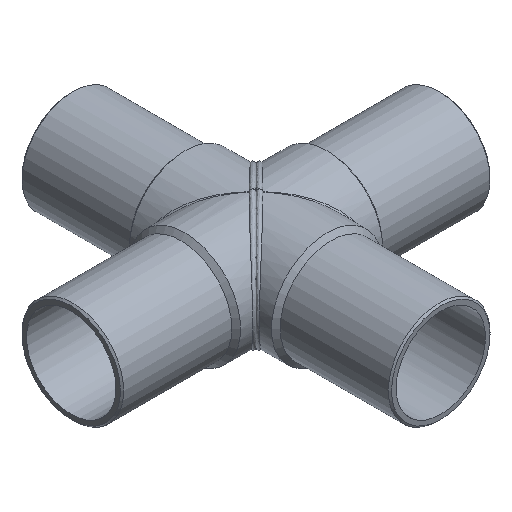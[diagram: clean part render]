
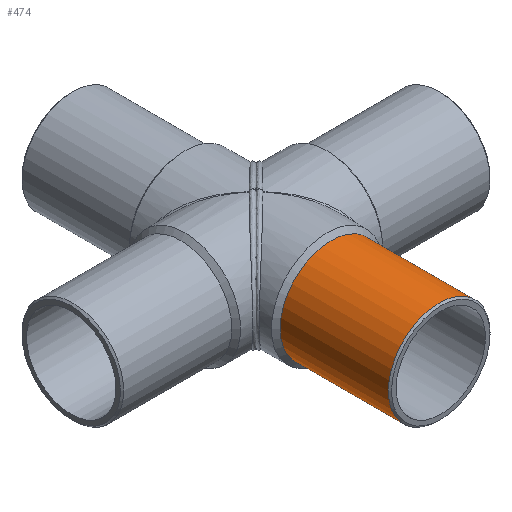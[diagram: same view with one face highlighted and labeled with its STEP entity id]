
A CAD part, isometric view. The second image highlights one B-rep face of the part: STEP entity #474.
In plain terms, the highlighted cylindrical face has radius 31.5 mm (diameter 63 mm), a full revolution.
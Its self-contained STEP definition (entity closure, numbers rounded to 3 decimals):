
#112=ORIENTED_EDGE('',*,*,#228,.F.);
#113=ORIENTED_EDGE('',*,*,#227,.F.);
#227=EDGE_CURVE('',#284,#284,#319,.T.);
#228=EDGE_CURVE('',#285,#285,#320,.T.);
#284=VERTEX_POINT('',#962);
#285=VERTEX_POINT('',#965);
#319=CIRCLE('',#539,31.5);
#320=CIRCLE('',#541,31.5);
#351=EDGE_LOOP('',(#112));
#352=EDGE_LOOP('',(#113));
#409=FACE_BOUND('',#351,.T.);
#410=FACE_BOUND('',#352,.T.);
#459=CYLINDRICAL_SURFACE('',#540,31.5);
#474=ADVANCED_FACE('',(#409,#410),#459,.T.);
#539=AXIS2_PLACEMENT_3D('',#961,#616,#617);
#540=AXIS2_PLACEMENT_3D('',#963,#618,#619);
#541=AXIS2_PLACEMENT_3D('',#964,#620,#621);
#616=DIRECTION('',(1.,0.,0.));
#617=DIRECTION('',(0.,0.,1.));
#618=DIRECTION('',(-1.,0.,0.));
#619=DIRECTION('',(0.,0.,1.));
#620=DIRECTION('',(-1.,0.,0.));
#621=DIRECTION('',(0.,0.,-1.));
#961=CARTESIAN_POINT('',(-46.5,0.,0.));
#962=CARTESIAN_POINT('',(-46.5,0.,31.5));
#963=CARTESIAN_POINT('',(-60.,0.,0.));
#964=CARTESIAN_POINT('',(-113.5,0.,0.));
#965=CARTESIAN_POINT('',(-113.5,0.,-31.5));
